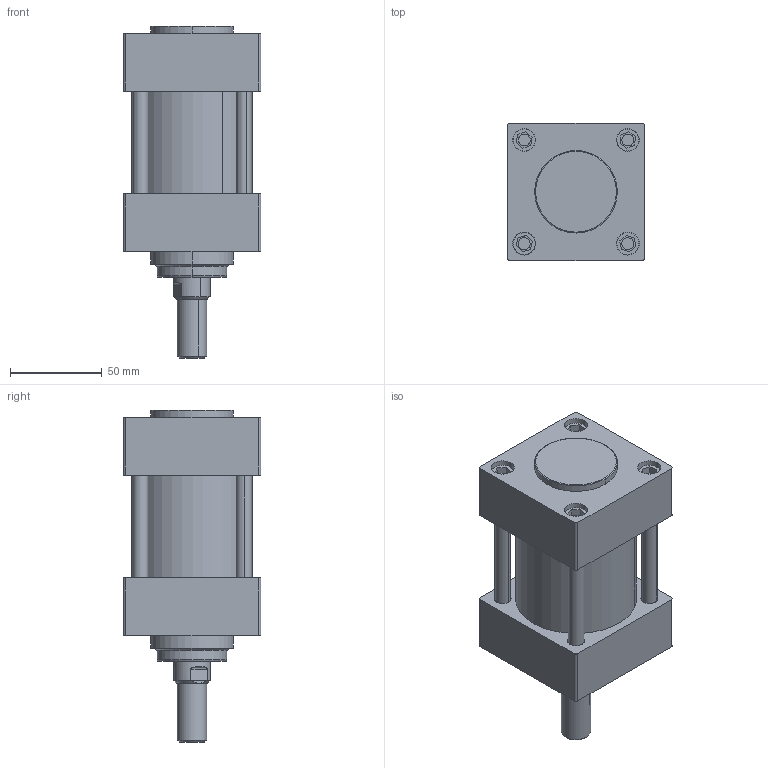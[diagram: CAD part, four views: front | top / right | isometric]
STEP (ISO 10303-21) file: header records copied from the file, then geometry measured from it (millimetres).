
FILE_DESCRIPTION (( 'STEP AP203' ), '1' );
FILE_NAME ('SC-CR-S-63X25-CYLINDER.STEP', '2016-10-27T11:30:46', ( 'user' ), ( '' ), 'SwSTEP 2.0', 'SolidWorks 2013', '' );
FILE_SCHEMA (( 'CONFIG_CONTROL_DESIGN' ));
Length unit declared in the file: millimetre
Products named in the file (8): SC-CR-S 63 ARKA KAPAK ; SC-CR-S 63 烰 KAPAK ; SC-CR-S 63 ORTA PÝSTON ; SC-CR-S 63 CIVATA; SC-CR-S 63x25 BORU; SC-CR-S 63x25 Piston Mili ; SC-CR-S 63x25 SAPLAMA; SC-CR-S-63X25-CYLINDER
Assembly tree (17 placements, depth 2):
  SC-CR-S-63X25-CYLINDER
    SC-CR-S 63 ARKA KAPAK 
    SC-CR-S 63 烰 KAPAK 
    SC-CR-S 63 ORTA PÝSTON 
    SC-CR-S 63 CIVATA  x8
    SC-CR-S 63x25 BORU
    SC-CR-S 63x25 Piston Mili 
    SC-CR-S 63x25 SAPLAMA  x4
Bounding box: 75 x 75 x 181 mm (x, y, z)
Volume: 504590.5 mm3; surface area: 136075.5 mm2
Topology: 19 solids, 19 shells, 366 faces, 795 edges, 504 vertices
Faces by surface type: cylinder 152, plane 138, cone 58, torus 18
Entity records: 7812 total; most frequent: CARTESIAN_POINT 1323, DIRECTION 1266, ORIENTED_EDGE 1002, AXIS2_PLACEMENT_3D 531, EDGE_CURVE 501, VERTEX_POINT 316, EDGE_LOOP 291, CIRCLE 282
